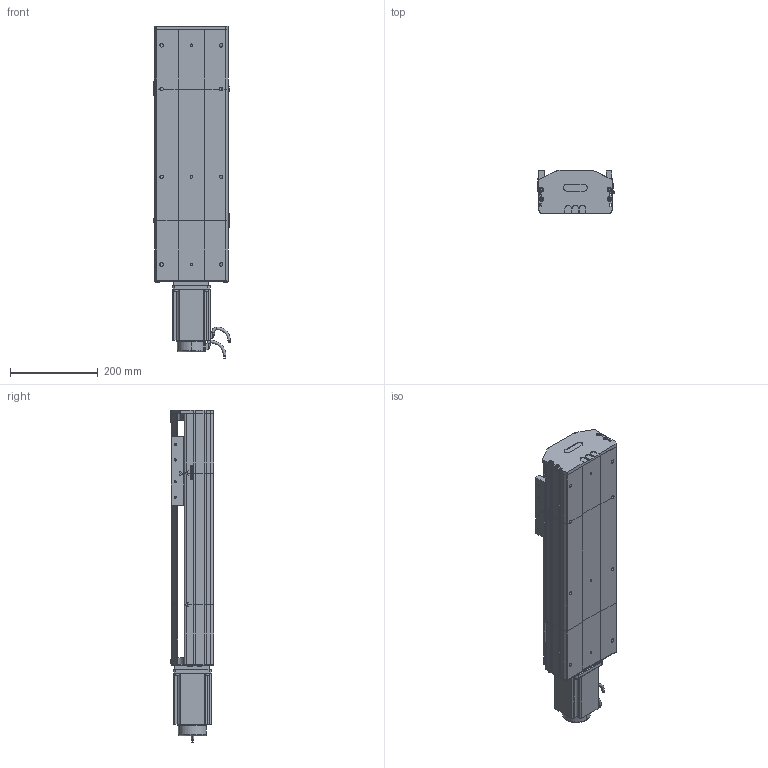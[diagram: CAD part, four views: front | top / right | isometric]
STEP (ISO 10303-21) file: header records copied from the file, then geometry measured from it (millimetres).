
FILE_DESCRIPTION (( 'STEP AP214' ), '1' );
FILE_NAME ('D17 TSH MD S300.STEP', '2010-06-29T14:46:19', ( 'Christophe Gaillard' ), ( 'SGA' ), 'SwSTEP 2.0', 'SolidWorks 2010', '' );
FILE_SCHEMA (( 'AUTOMOTIVE_DESIGN' ));
Length unit declared in the file: millimetre
Products named in the file (31): codeur 90BLDC125-640; Arbre+rail head D17; Vis M5 L16-2_Default; Moteur motionking 90BLDC125A-640; vis M5 L5_Default; plaque de  bout head D17_Default; avant 90BLDC125A-640; Chariot D17; Conecteur_Default; chariot D17S_Default; Conecteur2_Default; corps 90BLDC125A-640; vis M5 L12_Default; guide D17; Tail D17+L100_Default; corpl tail D17+L100_Default; arbre + rail D17 Course 300 ; course 300 D17_Default; D17 TSH MD S300; couvercle D17 course L300_Default; corp D17 300_Default; Arbre+rail tail D17; couvercle D17_Default; plaque de  bout tail D17_Default; couvercle D17 head_Default; vis M5 L25_Default; corpl head D17 MD_Default; vis M5 L8 90°_Default; head MD_Default; tete d''axe bas D17; tete d''axe haut D17
Assembly tree (50 placements, depth 4):
  D17 TSH MD S300
    head MD_Default
      vis M5 L12_Default  x6
      vis M5 L5_Default  x2
      Moteur motionking 90BLDC125A-640
        avant 90BLDC125A-640
        Conecteur_Default
        codeur 90BLDC125-640
        corps 90BLDC125A-640
        Conecteur2_Default
      corpl head D17 MD_Default
      Vis M5 L16-2_Default  x4
      Arbre+rail head D17
      couvercle D17 head_Default
      plaque de  bout head D17_Default
    chariot D17S_Default
      vis M5 L12_Default  x4
      guide D17  x2
      Chariot D17
    course 300 D17_Default
      couvercle D17 course L300_Default
      corp D17 300_Default
      arbre + rail D17 Course 300 
    Tail D17+L100_Default
      vis M5 L12_Default  x4
      plaque de  bout tail D17_Default
      tete d''axe haut D17
      corpl tail D17+L100_Default
      vis M5 L8 90°_Default  x2
      Arbre+rail tail D17
      vis M5 L25_Default  x2
      couvercle D17_Default
      tete d''axe bas D17
Bounding box: 174.95 x 99.7 x 757.5 mm (x, y, z)
Volume: 4739224.7 mm3; surface area: 1147271.9 mm2
Topology: 75 solids, 75 shells, 2082 faces, 5249 edges, 3404 vertices
Faces by surface type: plane 1323, cylinder 510, bspline 136, torus 57, cone 56
Entity records: 69559 total; most frequent: CARTESIAN_POINT 22122, ORIENTED_EDGE 8314, DIRECTION 7694, EDGE_CURVE 4157, LINE 2950, VECTOR 2950, VERTEX_POINT 2740, AXIS2_PLACEMENT_3D 2372
